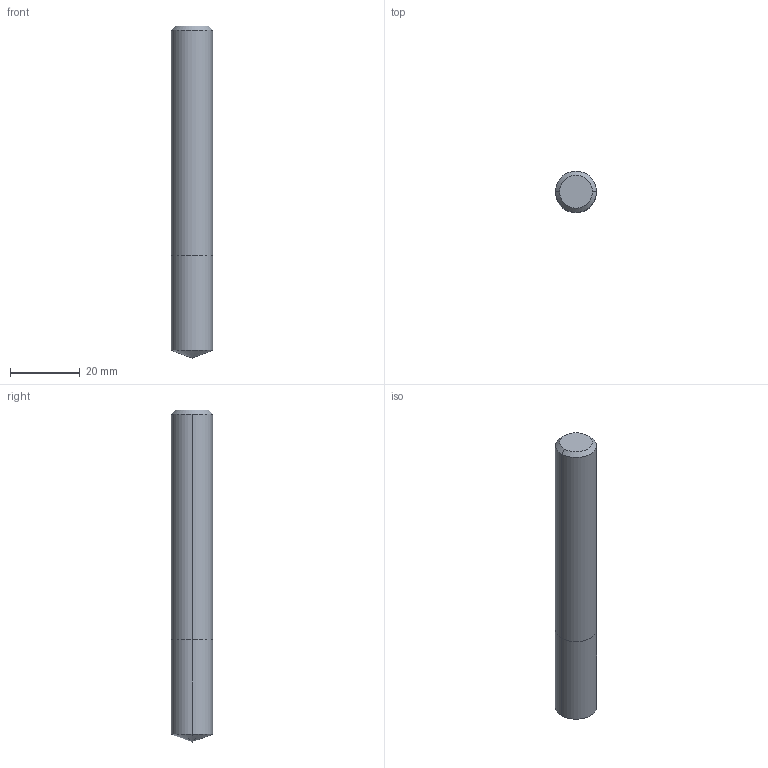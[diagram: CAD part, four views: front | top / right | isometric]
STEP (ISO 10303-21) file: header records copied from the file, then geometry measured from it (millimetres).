
FILE_DESCRIPTION (( 'STEP AP214' ), '1' );
FILE_NAME ('303.118.00_3D-model.step', '2022-02-19T16:10:31', ( '' ), ( '' ), 'SwSTEP 2.0', 'SolidWorks 2020', '' );
FILE_SCHEMA (( 'AUTOMOTIVE_DESIGN' ));
Length unit declared in the file: millimetre
Products named in the file (3): 303.118.00_3D-model; CUT-3D^Baugr77; NOCUT-3D^Baugr77
Assembly tree (2 placements, depth 2):
  303.118.00_3D-model
    CUT-3D^Baugr77
    NOCUT-3D^Baugr77
Bounding box: 11.8 x 11.8 x 95 mm (x, y, z)
Volume: 10208.5 mm3; surface area: 3859.1 mm2
Topology: 2 solids, 2 shells, 11 faces, 20 edges, 11 vertices
Faces by surface type: cone 4, cylinder 4, plane 3
Entity records: 380 total; most frequent: DIRECTION 66, CARTESIAN_POINT 48, ORIENTED_EDGE 36, AXIS2_PLACEMENT_3D 29, EDGE_CURVE 18, ADVANCED_FACE 11, FACE_OUTER_BOUND 11, VERTEX_POINT 11
